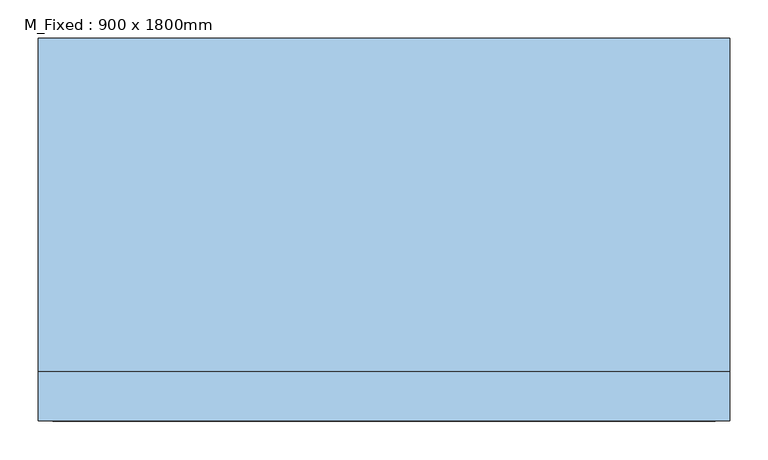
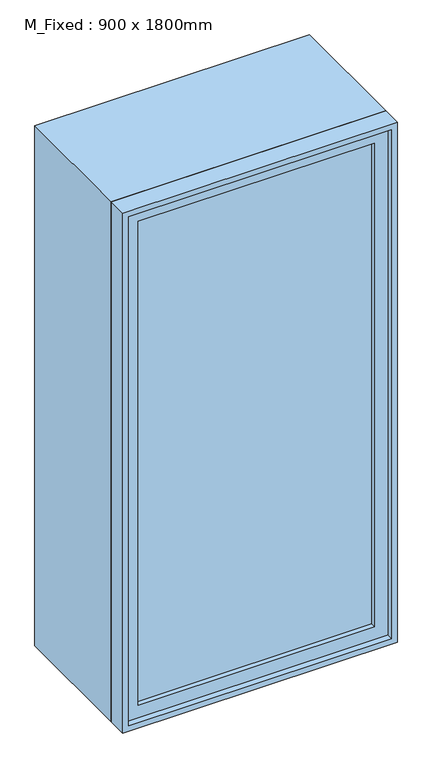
"""IFC4 building model written with IfcOpenShell, lengths in millimetres: window geometry, M_Fixed : 900 x 1800mm."""

from ifc_helpers import new_model, si_unit, frame, origin, place, context, project, spatial, polyline, outline, extrude, source, transform, mapped, element, save


def m_fixed_900_x_1800mm_db9ebc56(model_context):
    return source(origin(), model_context, "Body", "SweptSolid", [
        extrude(outline(polyline([(-387.0, -226.0), (-387.0, -214.0), (387.0, -214.0), (387.0, -226.0), (-387.0, -226.0)])), frame((0.0, 0.0, 363.0), z_axis=(0.0, 0.0, 1.0), x_axis=(1.0, 0.0, 0.0)), (0.0, 0.0, 1.0), 1674.0),
        extrude(outline(polyline([(2081.0, -431.0), (319.0, -431.0), (319.0, 431.0), (2081.0, 431.0), (2081.0, -431.0)]), holes=[polyline([(2037.0, -387.0), (2037.0, 387.0), (363.0, 387.0), (363.0, -387.0), (2037.0, -387.0)])]), frame((0.0, -242.0, 0.0), z_axis=(0.0, 1.0, 0.0), x_axis=(0.0, 0.0, 1.0)), (0.0, 0.0, 1.0), 44.0),
        extrude(outline(polyline([(2100.0, -450.0), (300.0, -450.0), (300.0, 450.0), (2100.0, 450.0), (2100.0, -450.0)]), holes=[polyline([(2081.0, -431.0), (2081.0, 431.0), (319.0, 431.0), (319.0, -431.0), (2081.0, -431.0)])]), frame((0.0, -262.0, 0.0), z_axis=(0.0, 1.0, 0.0), x_axis=(0.0, 0.0, 1.0)), (0.0, 0.0, 1.0), 64.0),
        extrude(outline(polyline([(2100.0, -450.0), (300.0, -450.0), (300.0, 450.0), (2100.0, 450.0), (2100.0, -450.0)]), holes=[polyline([(2068.0, -418.0), (2068.0, 418.0), (332.0, 418.0), (332.0, -418.0), (2068.0, -418.0)])]), frame((0.0, -198.0, 0.0), z_axis=(0.0, 1.0, 0.0), x_axis=(0.0, 0.0, 1.0)), (0.0, 0.0, 1.0), 434.0),
    ])


if __name__ == "__main__":
    model = new_model("IFC4")
    model_context = context("Model", 3, world=origin())
    ifc_project = project(units=[si_unit("LENGTHUNIT", "METRE", prefix="MILLI")], contexts=[model_context])
    site = spatial("IfcSite", under=ifc_project)
    building = spatial("IfcBuilding", under=site)
    placement = place(None, origin())
    m_fixed_900_x_1800mm_shape = m_fixed_900_x_1800mm_db9ebc56(model_context)
    element("IfcWindow", 1, ObjectType="M_Fixed : 900 x 1800mm", at=placement, inside=building, context=model_context, shape_type="MappedRepresentation", body=[
        mapped(m_fixed_900_x_1800mm_shape, transform((0.0, 0.0, 0.0), x_axis=(1.0, 0.0, 0.0), y_axis=(0.0, 1.0, 0.0), z_axis=(0.0, 0.0, 1.0))),
    ])
    save(model, "model.ifc")
